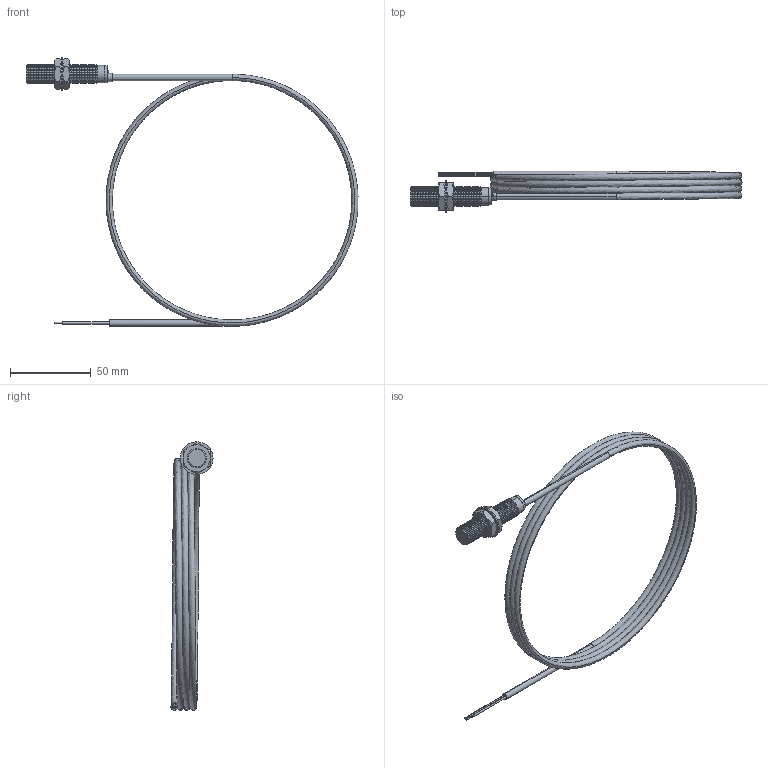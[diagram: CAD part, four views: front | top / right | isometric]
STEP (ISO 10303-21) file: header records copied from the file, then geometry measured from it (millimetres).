
FILE_DESCRIPTION (( 'STEP AP203' ), '1' );
FILE_NAME ('90-29417-069.STEP', '2015-11-30T02:37:46', ( 'Sam' ), ( 'Spade' ), 'SwSTEP 2.0', 'SolidWorks 2002296', '' );
FILE_SCHEMA (( 'CONFIG_CONTROL_DESIGN' ));
Length unit declared in the file: inch
Products named in the file (14): 90-29417-069; Imported33; Imported32; Imported34; Imported31; Imported30; Imported25; Imported24; Imported36; Imported35; Imported29; Imported28; Imported27; Imported26
Assembly tree (13 placements, depth 2):
  90-29417-069
    Imported24
    Imported31
    Imported27
    Imported30
    Imported25
    Imported34
    Imported32
    Imported35
    Imported29
    Imported28
    Imported33
    Imported26
    Imported36
Bounding box: 206.01 x 26.19 x 166.58 mm (x, y, z)
Volume: 29172.4 mm3; surface area: 28471.8 mm2
Topology: 13 solids, 13 shells, 444 faces, 937 edges, 516 vertices
Faces by surface type: cone 237, cylinder 126, plane 77, bspline 4
Entity records: 14174 total; most frequent: CARTESIAN_POINT 3078, DIRECTION 2196, ORIENTED_EDGE 1870, EDGE_CURVE 935, AXIS2_PLACEMENT_3D 868, VERTEX_POINT 516, VECTOR 460, LINE 460
